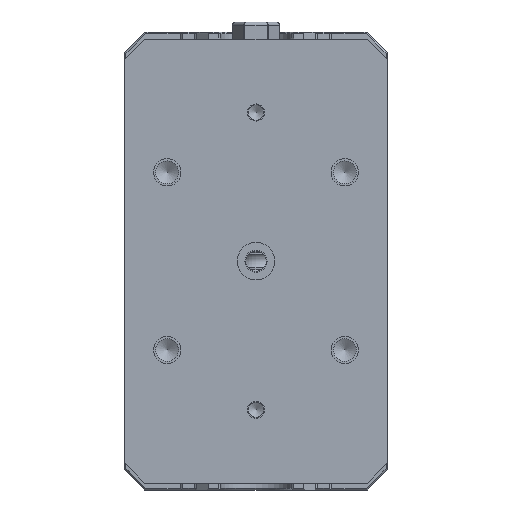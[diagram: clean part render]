
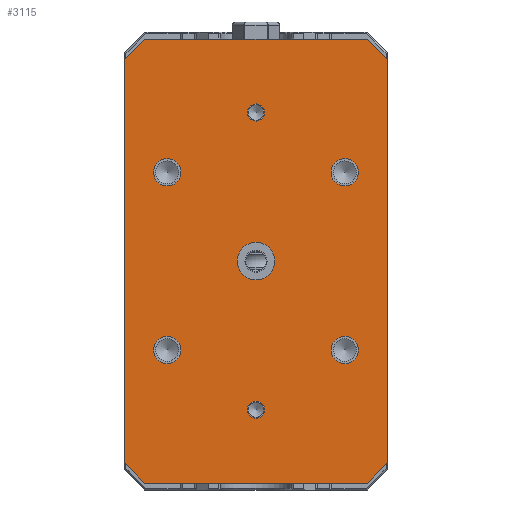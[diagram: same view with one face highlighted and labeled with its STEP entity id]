
A CAD part, front view. The second image highlights one B-rep face of the part: STEP entity #3115.
In plain terms, the highlighted planar face has unit normal (0, -1, 0).
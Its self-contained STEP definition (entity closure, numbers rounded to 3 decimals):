
#1617=PLANE('',#23064);
#2030=FACE_BOUND('',#5847,.T.);
#2031=FACE_BOUND('',#5848,.T.);
#2032=FACE_BOUND('',#5849,.T.);
#2033=FACE_BOUND('',#5850,.T.);
#2034=FACE_BOUND('',#5851,.T.);
#2035=FACE_BOUND('',#5852,.T.);
#2036=FACE_BOUND('',#5853,.T.);
#2037=FACE_BOUND('',#5854,.T.);
#3115=ADVANCED_FACE('',(#2030,#2031,#2032,#2033,#2034,#2035,#2036,#2037),
#1617,.F.);
#5847=EDGE_LOOP('',(#15256));
#5848=EDGE_LOOP('',(#15257));
#5849=EDGE_LOOP('',(#15258));
#5850=EDGE_LOOP('',(#15259));
#5851=EDGE_LOOP('',(#15260));
#5852=EDGE_LOOP('',(#15261,#15262,#15263,#15264,#15265,#15266,#15267,#15268));
#5853=EDGE_LOOP('',(#15269));
#5854=EDGE_LOOP('',(#15270));
#7681=LINE('',#42427,#9605);
#7723=LINE('',#42551,#9647);
#7724=LINE('',#42554,#9648);
#7725=LINE('',#42556,#9649);
#7726=LINE('',#42558,#9650);
#7727=LINE('',#42560,#9651);
#7728=LINE('',#42562,#9652);
#7729=LINE('',#42563,#9653);
#9605=VECTOR('',#28180,1.);
#9647=VECTOR('',#28240,1.);
#9648=VECTOR('',#28241,1.);
#9649=VECTOR('',#28242,1.);
#9650=VECTOR('',#28243,1.);
#9651=VECTOR('',#28244,1.);
#9652=VECTOR('',#28245,1.);
#9653=VECTOR('',#28246,1.);
#15256=ORIENTED_EDGE('',*,*,#20750,.T.);
#15257=ORIENTED_EDGE('',*,*,#20751,.T.);
#15258=ORIENTED_EDGE('',*,*,#20752,.T.);
#15259=ORIENTED_EDGE('',*,*,#20753,.T.);
#15260=ORIENTED_EDGE('',*,*,#20754,.T.);
#15261=ORIENTED_EDGE('',*,*,#20755,.F.);
#15262=ORIENTED_EDGE('',*,*,#20756,.T.);
#15263=ORIENTED_EDGE('',*,*,#20757,.F.);
#15264=ORIENTED_EDGE('',*,*,#20758,.T.);
#15265=ORIENTED_EDGE('',*,*,#20759,.T.);
#15266=ORIENTED_EDGE('',*,*,#20760,.T.);
#15267=ORIENTED_EDGE('',*,*,#20703,.T.);
#15268=ORIENTED_EDGE('',*,*,#20761,.T.);
#15269=ORIENTED_EDGE('',*,*,#20762,.T.);
#15270=ORIENTED_EDGE('',*,*,#20763,.F.);
#17784=VERTEX_POINT('',#42426);
#17785=VERTEX_POINT('',#42428);
#17831=VERTEX_POINT('',#42542);
#17832=VERTEX_POINT('',#42544);
#17833=VERTEX_POINT('',#42546);
#17834=VERTEX_POINT('',#42548);
#17835=VERTEX_POINT('',#42550);
#17836=VERTEX_POINT('',#42552);
#17837=VERTEX_POINT('',#42553);
#17838=VERTEX_POINT('',#42555);
#17839=VERTEX_POINT('',#42557);
#17840=VERTEX_POINT('',#42559);
#17841=VERTEX_POINT('',#42561);
#17842=VERTEX_POINT('',#42565);
#17843=VERTEX_POINT('',#42567);
#20703=EDGE_CURVE('',#17785,#17784,#7681,.T.);
#20750=EDGE_CURVE('',#17831,#17831,#21362,.T.);
#20751=EDGE_CURVE('',#17832,#17832,#21363,.T.);
#20752=EDGE_CURVE('',#17833,#17833,#21364,.T.);
#20753=EDGE_CURVE('',#17834,#17834,#21365,.T.);
#20754=EDGE_CURVE('',#17835,#17835,#21366,.T.);
#20755=EDGE_CURVE('',#17836,#17837,#7723,.T.);
#20756=EDGE_CURVE('',#17836,#17838,#7724,.T.);
#20757=EDGE_CURVE('',#17839,#17838,#7725,.T.);
#20758=EDGE_CURVE('',#17839,#17840,#7726,.T.);
#20759=EDGE_CURVE('',#17840,#17841,#7727,.T.);
#20760=EDGE_CURVE('',#17841,#17785,#7728,.T.);
#20761=EDGE_CURVE('',#17784,#17837,#7729,.T.);
#20762=EDGE_CURVE('',#17842,#17842,#21367,.T.);
#20763=EDGE_CURVE('',#17843,#17843,#21368,.T.);
#21362=CIRCLE('',#23057,4.);
#21363=CIRCLE('',#23058,4.);
#21364=CIRCLE('',#23059,4.);
#21365=CIRCLE('',#23060,4.);
#21366=CIRCLE('',#23061,5.5);
#21367=CIRCLE('',#23062,2.5);
#21368=CIRCLE('',#23063,2.5);
#23057=AXIS2_PLACEMENT_3D('',#42541,#28230,#28231);
#23058=AXIS2_PLACEMENT_3D('',#42543,#28232,#28233);
#23059=AXIS2_PLACEMENT_3D('',#42545,#28234,#28235);
#23060=AXIS2_PLACEMENT_3D('',#42547,#28236,#28237);
#23061=AXIS2_PLACEMENT_3D('',#42549,#28238,#28239);
#23062=AXIS2_PLACEMENT_3D('',#42564,#28247,#28248);
#23063=AXIS2_PLACEMENT_3D('',#42566,#28249,#28250);
#23064=AXIS2_PLACEMENT_3D('',#42568,#28251,#28252);
#28180=DIRECTION('',(-1.,0.,0.));
#28230=DIRECTION('',(0.,1.,0.));
#28231=DIRECTION('',(0.,0.,1.));
#28232=DIRECTION('',(0.,1.,0.));
#28233=DIRECTION('',(0.,0.,1.));
#28234=DIRECTION('',(0.,1.,0.));
#28235=DIRECTION('',(0.,0.,1.));
#28236=DIRECTION('',(0.,1.,0.));
#28237=DIRECTION('',(0.,0.,1.));
#28238=DIRECTION('',(0.,1.,0.));
#28239=DIRECTION('',(0.,0.,1.));
#28240=DIRECTION('',(0.,0.,1.));
#28241=DIRECTION('',(0.707,0.,-0.707));
#28242=DIRECTION('',(-1.,0.,0.));
#28243=DIRECTION('',(0.707,0.,0.707));
#28244=DIRECTION('',(0.,0.,1.));
#28245=DIRECTION('',(-0.707,0.,0.707));
#28246=DIRECTION('',(-0.707,0.,-0.707));
#28247=DIRECTION('',(0.,1.,0.));
#28248=DIRECTION('',(0.,0.,1.));
#28249=DIRECTION('',(0.,-1.,0.));
#28250=DIRECTION('',(0.,0.,-1.));
#28251=DIRECTION('',(0.,1.,0.));
#28252=DIRECTION('',(0.,0.,1.));
#42426=CARTESIAN_POINT('',(1261.552,691.636,0.));
#42427=CARTESIAN_POINT('',(1332.552,691.636,0.));
#42428=CARTESIAN_POINT('',(1326.552,691.636,0.));
#42541=CARTESIAN_POINT('',(1268.052,691.636,-91.));
#42542=CARTESIAN_POINT('',(1268.052,691.636,-87.));
#42543=CARTESIAN_POINT('',(1268.052,691.636,-39.));
#42544=CARTESIAN_POINT('',(1268.052,691.636,-35.));
#42545=CARTESIAN_POINT('',(1320.052,691.636,-39.));
#42546=CARTESIAN_POINT('',(1320.052,691.636,-35.));
#42547=CARTESIAN_POINT('',(1320.052,691.636,-91.));
#42548=CARTESIAN_POINT('',(1320.052,691.636,-87.));
#42549=CARTESIAN_POINT('',(1294.052,691.636,-65.));
#42550=CARTESIAN_POINT('',(1294.052,691.636,-59.5));
#42551=CARTESIAN_POINT('',(1255.552,691.636,-130.));
#42552=CARTESIAN_POINT('',(1255.552,691.636,-124.));
#42553=CARTESIAN_POINT('',(1255.552,691.636,-6.));
#42554=CARTESIAN_POINT('',(1261.552,691.636,-130.));
#42555=CARTESIAN_POINT('',(1261.552,691.636,-130.));
#42556=CARTESIAN_POINT('',(1332.552,691.636,-130.));
#42557=CARTESIAN_POINT('',(1326.552,691.636,-130.));
#42558=CARTESIAN_POINT('',(1326.552,691.636,-130.));
#42559=CARTESIAN_POINT('',(1332.552,691.636,-124.));
#42560=CARTESIAN_POINT('',(1332.552,691.636,-130.));
#42561=CARTESIAN_POINT('',(1332.552,691.636,-6.));
#42562=CARTESIAN_POINT('',(1332.552,691.636,-6.));
#42563=CARTESIAN_POINT('',(1255.552,691.636,-6.));
#42564=CARTESIAN_POINT('',(1294.052,691.636,-21.5));
#42565=CARTESIAN_POINT('',(1294.052,691.636,-19.));
#42566=CARTESIAN_POINT('',(1294.052,691.636,-108.5));
#42567=CARTESIAN_POINT('',(1294.052,691.636,-111.));
#42568=CARTESIAN_POINT('',(1332.552,691.636,-130.));
